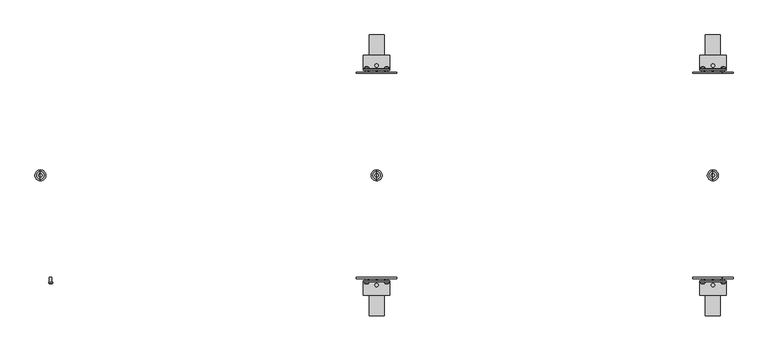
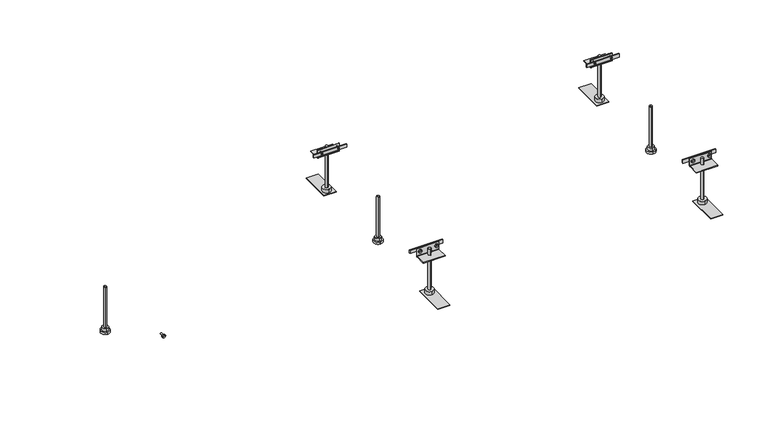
"""IFC4 building model written with IfcOpenShell, lengths in millimetres: proxy geometry."""

from ifc_helpers import new_model, si_unit, point, frame, frame_2d, origin, place, context, project, spatial, polyline, circle_curve, ellipse_curve, trimmed, segment, composite_curve, outline, extrude, source, transform, mapped, element, save
from ifc_brep_helpers import plane_surface, cylinder_surface, revolved_surface, advanced_brep


def electrical_fixtures_84b00acf(model_context):
    return source(origin(), model_context, "Body", "SolidModel", [
        advanced_brep(
        [(1600.0, 13.0, -129.7), (1600.0, -13.0, -129.7), (1600.0, 0.0, -129.7), (1600.0, 13.0, -123.7), (1600.0, -13.0, -123.7), (1600.0, 9.0, -123.7), (1600.0, -9.0, -123.7), (1600.0, 9.0, -114.7), (1600.0, -9.0, -114.7), (1600.0, 3.954744, -114.7), (1600.0, -3.954744, -114.7), (1600.0, 3.954744, 10.3), (1600.0, -3.954744, 10.3), (1600.0, 0.0, 10.3)],
        [
            (0, 1, circle_curve(frame((1600.0, 0.0, -129.7), z_axis=(0.0, 0.0, -1.0), x_axis=(0.0, -1.0, 0.0)), 13.0)),
            (1, 2),
            (2, 0),
            (1, 0, circle_curve(frame((1600.0, 0.0, -129.7), z_axis=(0.0, 0.0, -1.0), x_axis=(0.0, -1.0, 0.0)), 13.0)),
            (3, 4, circle_curve(frame((1600.0, 0.0, -123.7), z_axis=(0.0, 0.0, -1.0), x_axis=(0.0, -1.0, 0.0)), 13.0)),
            (4, 1),
            (0, 3),
            (4, 3, circle_curve(frame((1600.0, 0.0, -123.7), z_axis=(0.0, 0.0, -1.0), x_axis=(0.0, -1.0, 0.0)), 13.0)),
            (5, 6, circle_curve(frame((1600.0, 0.0, -123.7), z_axis=(0.0, 0.0, -1.0), x_axis=(0.0, -1.0, 0.0)), 9.0)),
            (6, 4),
            (3, 5),
            (6, 5, circle_curve(frame((1600.0, 0.0, -123.7), z_axis=(0.0, 0.0, -1.0), x_axis=(0.0, -1.0, 0.0)), 9.0)),
            (7, 8, circle_curve(frame((1600.0, 0.0, -114.7), z_axis=(0.0, 0.0, -1.0), x_axis=(0.0, -1.0, 0.0)), 9.0)),
            (8, 6),
            (5, 7),
            (8, 7, circle_curve(frame((1600.0, 0.0, -114.7), z_axis=(0.0, 0.0, -1.0), x_axis=(0.0, -1.0, 0.0)), 9.0)),
            (9, 10, circle_curve(frame((1600.0, 0.0, -114.7), z_axis=(0.0, 0.0, -1.0), x_axis=(0.0, -1.0, 0.0)), 3.954744)),
            (10, 8),
            (7, 9),
            (10, 9, circle_curve(frame((1600.0, 0.0, -114.7), z_axis=(0.0, 0.0, -1.0), x_axis=(0.0, -1.0, 0.0)), 3.954744)),
            (11, 12, circle_curve(frame((1600.0, 0.0, 10.3), z_axis=(0.0, 0.0, -1.0), x_axis=(0.0, -1.0, 0.0)), 3.954744)),
            (12, 10),
            (9, 11),
            (12, 11, circle_curve(frame((1600.0, 0.0, 10.3), z_axis=(0.0, 0.0, -1.0), x_axis=(0.0, -1.0, 0.0)), 3.954744)),
            (13, 12),
            (11, 13),
        ],
        [
            plane_surface(frame((1600.0, 0.0, -129.7), z_axis=(0.0, 0.0, -1.0), x_axis=(0.0, -1.0, 0.0))),
            cylinder_surface(frame((1600.0, 0.0, 7.8), z_axis=(0.0, 0.0, 1.0), x_axis=(0.0, -1.0, 0.0)), 13.0),
            plane_surface(frame((1600.0, 0.0, -123.7), z_axis=(0.0, 0.0, 1.0), x_axis=(0.0, -1.0, 0.0))),
            cylinder_surface(frame((1600.0, 0.0, 7.8), z_axis=(0.0, 0.0, 1.0), x_axis=(0.0, -1.0, 0.0)), 9.0),
            plane_surface(frame((1600.0, 0.0, -114.7), z_axis=(0.0, 0.0, 1.0), x_axis=(0.0, -1.0, 0.0))),
            cylinder_surface(frame((1600.0, 0.0, 7.8), z_axis=(0.0, 0.0, 1.0), x_axis=(0.0, -1.0, 0.0)), 3.954744),
            plane_surface(frame((1600.0, 0.0, 10.3), z_axis=(0.0, 0.0, 1.0), x_axis=(0.0, -1.0, 0.0))),
        ],
        [
            (0, [[1, 2, 3]]),
            (0, [[4, -3, -2]]),
            (1, [[5, 6, -1, 7]]),
            (1, [[8, -7, -4, -6]]),
            (2, [[9, 10, -5, 11]]),
            (2, [[12, -11, -8, -10]]),
            (3, [[13, 14, -9, 15]]),
            (3, [[16, -15, -12, -14]]),
            (4, [[17, 18, -13, 19]]),
            (4, [[20, -19, -16, -18]]),
            (5, [[21, 22, -17, 23]]),
            (5, [[24, -23, -20, -22]]),
            (6, [[25, -21, 26]]),
            (6, [[-26, -24, -25]]),
        ],
    ),
        advanced_brep(
        [(1629.0575247, -256.6418922, 3.3), (1619.4769168, -256.6418922, 3.3), (1619.4769168, -254.7, 3.3), (1629.0575247, -254.7, 3.3), (1621.7042517, -254.7, 3.3), (1626.8301898, -254.7, 3.3), (1621.7042517, -242.7, 3.3), (1626.8301898, -242.7, 3.3), (1624.2672208, -242.7, 3.3), (1624.2672208, -258.3479209, 3.3)],
        [
            (0, 1, circle_curve(frame((1624.2672208, -256.6418922, 3.3), z_axis=(0.0, 1.0, 0.0), x_axis=(-1.0, 0.0, 0.0)), 4.790304)),
            (1, 2),
            (2, 3, circle_curve(frame((1624.2672208, -254.7, 3.3), z_axis=(0.0, -1.0, 0.0), x_axis=(-1.0, 0.0, 0.0)), 4.790304)),
            (3, 0),
            (1, 0, circle_curve(frame((1624.2672208, -256.6418922, 3.3), z_axis=(0.0, 1.0, 0.0), x_axis=(-1.0, 0.0, 0.0)), 4.790304)),
            (3, 2, circle_curve(frame((1624.2672208, -254.7, 3.3), z_axis=(0.0, -1.0, 0.0), x_axis=(-1.0, 0.0, 0.0)), 4.790304)),
            (2, 4),
            (4, 5, circle_curve(frame((1624.2672208, -254.7, 3.3), z_axis=(0.0, -1.0, 0.0), x_axis=(-1.0, 0.0, 0.0)), 2.562969)),
            (5, 3),
            (5, 4, circle_curve(frame((1624.2672208, -254.7, 3.3), z_axis=(0.0, -1.0, 0.0), x_axis=(-1.0, 0.0, 0.0)), 2.562969)),
            (4, 6),
            (6, 7, circle_curve(frame((1624.2672208, -242.7, 3.3), z_axis=(0.0, -1.0, 0.0), x_axis=(-1.0, 0.0, 0.0)), 2.562969)),
            (7, 5),
            (7, 6, circle_curve(frame((1624.2672208, -242.7, 3.3), z_axis=(0.0, -1.0, 0.0), x_axis=(-1.0, 0.0, 0.0)), 2.562969)),
            (6, 8),
            (8, 7),
            (9, 1, circle_curve(frame((1624.2353142, -250.8592246, 3.3), z_axis=(0.0, 0.0, -1.0), x_axis=(-1.0, 0.0, 0.0)), 7.4887643)),
            (0, 9, circle_curve(frame((1624.2991274, -250.8592246, 3.3), z_axis=(0.0, 0.0, -1.0), x_axis=(1.0, 0.0, 0.0)), 7.4887643)),
        ],
        [
            cylinder_surface(frame((1624.2672208, -254.2950786, 3.3), z_axis=(0.0, -1.0, 0.0), x_axis=(-1.0, 0.0, 0.0)), 4.790304),
            plane_surface(frame((1624.2672208, -254.7, 3.3), z_axis=(0.0, 1.0, 0.0), x_axis=(-1.0, 0.0, 0.0))),
            cylinder_surface(frame((1624.2672208, -254.2950786, 3.3), z_axis=(0.0, -1.0, 0.0), x_axis=(-1.0, 0.0, 0.0)), 2.562969),
            plane_surface(frame((1624.2672208, -242.7, 3.3), z_axis=(0.0, 1.0, 0.0), x_axis=(-1.0, 0.0, 0.0))),
            revolved_surface(trimmed(ellipse_curve(frame((1624.2353142, -250.8592246, 3.3), z_axis=(0.0, 0.0, 1.0), x_axis=(-1.0, 0.0, 0.0)), 7.4887643, 7.4887643), [point((1619.4769168, -256.6418922, 3.3))], [point((1624.2672208, -258.3479209, 3.3))], True, "CARTESIAN"), (1624.2672208, -254.2950786, 3.3), (0.0, -1.0, 0.0)),
        ],
        [
            (0, [[1, 2, 3, 4]]),
            (0, [[5, -4, 6, -2]]),
            (1, [[-3, 7, 8, 9]]),
            (1, [[-6, -9, 10, -7]]),
            (2, [[-8, 11, 12, 13]]),
            (2, [[-10, -13, 14, -11]]),
            (3, [[-12, 15, 16]]),
            (3, [[-14, -16, -15]]),
            (4, [[17, -1, 18]]),
            (4, [[-18, -5, -17]]),
        ],
    ),
        advanced_brep(
        [(1580.790304, -256.6418922, 3.3), (1571.209696, -256.6418922, 3.3), (1571.209696, -254.7, 3.3), (1580.790304, -254.7, 3.3), (1573.437031, -254.7, 3.3), (1578.562969, -254.7, 3.3), (1573.437031, -242.7, 3.3), (1578.562969, -242.7, 3.3), (1576.0, -242.7, 3.3), (1576.0, -258.3479209, 3.3)],
        [
            (0, 1, circle_curve(frame((1576.0, -256.6418922, 3.3), z_axis=(0.0, 1.0, 0.0), x_axis=(-1.0, 0.0, 0.0)), 4.790304)),
            (1, 2),
            (2, 3, circle_curve(frame((1576.0, -254.7, 3.3), z_axis=(0.0, -1.0, 0.0), x_axis=(-1.0, 0.0, 0.0)), 4.790304)),
            (3, 0),
            (1, 0, circle_curve(frame((1576.0, -256.6418922, 3.3), z_axis=(0.0, 1.0, 0.0), x_axis=(-1.0, 0.0, 0.0)), 4.790304)),
            (3, 2, circle_curve(frame((1576.0, -254.7, 3.3), z_axis=(0.0, -1.0, 0.0), x_axis=(-1.0, 0.0, 0.0)), 4.790304)),
            (2, 4),
            (4, 5, circle_curve(frame((1576.0, -254.7, 3.3), z_axis=(0.0, -1.0, 0.0), x_axis=(-1.0, 0.0, 0.0)), 2.562969)),
            (5, 3),
            (5, 4, circle_curve(frame((1576.0, -254.7, 3.3), z_axis=(0.0, -1.0, 0.0), x_axis=(-1.0, 0.0, 0.0)), 2.562969)),
            (4, 6),
            (6, 7, circle_curve(frame((1576.0, -242.7, 3.3), z_axis=(0.0, -1.0, 0.0), x_axis=(-1.0, 0.0, 0.0)), 2.562969)),
            (7, 5),
            (7, 6, circle_curve(frame((1576.0, -242.7, 3.3), z_axis=(0.0, -1.0, 0.0), x_axis=(-1.0, 0.0, 0.0)), 2.562969)),
            (6, 8),
            (8, 7),
            (9, 1, circle_curve(frame((1575.9680934, -250.8592246, 3.3), z_axis=(0.0, 0.0, -1.0), x_axis=(-1.0, 0.0, 0.0)), 7.4887643)),
            (0, 9, circle_curve(frame((1576.0319066, -250.8592246, 3.3), z_axis=(0.0, 0.0, -1.0), x_axis=(1.0, 0.0, 0.0)), 7.4887643)),
        ],
        [
            cylinder_surface(frame((1576.0, -254.2950786, 3.3), z_axis=(0.0, -1.0, 0.0), x_axis=(-1.0, 0.0, 0.0)), 4.790304),
            plane_surface(frame((1576.0, -254.7, 3.3), z_axis=(0.0, 1.0, 0.0), x_axis=(-1.0, 0.0, 0.0))),
            cylinder_surface(frame((1576.0, -254.2950786, 3.3), z_axis=(0.0, -1.0, 0.0), x_axis=(-1.0, 0.0, 0.0)), 2.562969),
            plane_surface(frame((1576.0, -242.7, 3.3), z_axis=(0.0, 1.0, 0.0), x_axis=(-1.0, 0.0, 0.0))),
            revolved_surface(trimmed(ellipse_curve(frame((1575.9680934, -250.8592246, 3.3), z_axis=(0.0, 0.0, 1.0), x_axis=(-1.0, 0.0, 0.0)), 7.4887643, 7.4887643), [point((1571.209696, -256.6418922, 3.3))], [point((1576.0, -258.3479209, 3.3))], True, "CARTESIAN"), (1576.0, -254.2950786, 3.3), (0.0, -1.0, 0.0)),
        ],
        [
            (0, [[1, 2, 3, 4]]),
            (0, [[5, -4, 6, -2]]),
            (1, [[-3, 7, 8, 9]]),
            (1, [[-6, -9, 10, -7]]),
            (2, [[-8, 11, 12, 13]]),
            (2, [[-10, -13, 14, -11]]),
            (3, [[-12, 15, 16]]),
            (3, [[-14, -16, -15]]),
            (4, [[17, -1, 18]]),
            (4, [[-18, -5, -17]]),
        ],
    ),
        advanced_brep(
        [(1629.0575247, 254.7, 3.3), (1619.4769168, 254.7, 3.3), (1619.4769168, 256.6418922, 3.3), (1629.0575247, 256.6418922, 3.3), (1626.8301898, 254.7, 3.3), (1621.7042517, 254.7, 3.3), (1626.8301898, 242.7, 3.3), (1621.7042517, 242.7, 3.3), (1624.2672208, 242.7, 3.3), (1624.2672208, 258.3479209, 3.3)],
        [
            (0, 1, circle_curve(frame((1624.2672208, 254.7, 3.3), z_axis=(0.0, 1.0, 0.0), x_axis=(-1.0, 0.0, 0.0)), 4.790304)),
            (1, 2),
            (2, 3, circle_curve(frame((1624.2672208, 256.6418922, 3.3), z_axis=(0.0, -1.0, 0.0), x_axis=(-1.0, 0.0, 0.0)), 4.790304)),
            (3, 0),
            (1, 0, circle_curve(frame((1624.2672208, 254.7, 3.3), z_axis=(0.0, 1.0, 0.0), x_axis=(-1.0, 0.0, 0.0)), 4.790304)),
            (3, 2, circle_curve(frame((1624.2672208, 256.6418922, 3.3), z_axis=(0.0, -1.0, 0.0), x_axis=(-1.0, 0.0, 0.0)), 4.790304)),
            (4, 5, circle_curve(frame((1624.2672208, 254.7, 3.3), z_axis=(0.0, 1.0, 0.0), x_axis=(-1.0, 0.0, 0.0)), 2.562969)),
            (5, 1),
            (0, 4),
            (5, 4, circle_curve(frame((1624.2672208, 254.7, 3.3), z_axis=(0.0, 1.0, 0.0), x_axis=(-1.0, 0.0, 0.0)), 2.562969)),
            (6, 7, circle_curve(frame((1624.2672208, 242.7, 3.3), z_axis=(0.0, 1.0, 0.0), x_axis=(-1.0, 0.0, 0.0)), 2.562969)),
            (7, 5),
            (4, 6),
            (7, 6, circle_curve(frame((1624.2672208, 242.7, 3.3), z_axis=(0.0, 1.0, 0.0), x_axis=(-1.0, 0.0, 0.0)), 2.562969)),
            (8, 7),
            (6, 8),
            (2, 9, circle_curve(frame((1624.2353142, 250.8592246, 3.3), z_axis=(0.0, 0.0, -1.0), x_axis=(-1.0, 0.0, 0.0)), 7.4887643)),
            (9, 3, circle_curve(frame((1624.2991274, 250.8592246, 3.3), z_axis=(0.0, 0.0, -1.0), x_axis=(1.0, 0.0, 0.0)), 7.4887643)),
        ],
        [
            cylinder_surface(frame((1624.2672208, 254.2950786, 3.3), z_axis=(0.0, -1.0, 0.0), x_axis=(-1.0, 0.0, 0.0)), 4.790304),
            plane_surface(frame((1624.2672208, 254.7, 3.3), z_axis=(0.0, -1.0, 0.0), x_axis=(-1.0, 0.0, 0.0))),
            cylinder_surface(frame((1624.2672208, 254.2950786, 3.3), z_axis=(0.0, -1.0, 0.0), x_axis=(-1.0, 0.0, 0.0)), 2.562969),
            plane_surface(frame((1624.2672208, 242.7, 3.3), z_axis=(0.0, -1.0, 0.0), x_axis=(-1.0, 0.0, 0.0))),
            revolved_surface(trimmed(ellipse_curve(frame((1624.2353142, 250.8592246, 3.3), z_axis=(0.0, 0.0, 1.0), x_axis=(-1.0, 0.0, 0.0)), 7.4887643, 7.4887643), [point((1624.2672208, 258.3479209, 3.3))], [point((1619.4769168, 256.6418922, 3.3))], True, "CARTESIAN"), (1624.2672208, 254.2950786, 3.3), (0.0, -1.0, 0.0)),
        ],
        [
            (0, [[1, 2, 3, 4]]),
            (0, [[5, -4, 6, -2]]),
            (1, [[7, 8, -1, 9]]),
            (1, [[10, -9, -5, -8]]),
            (2, [[11, 12, -7, 13]]),
            (2, [[14, -13, -10, -12]]),
            (3, [[15, -11, 16]]),
            (3, [[-16, -14, -15]]),
            (4, [[-3, 17, 18]]),
            (4, [[-6, -18, -17]]),
        ],
    ),
        advanced_brep(
        [(1580.790304, 254.7, 3.3), (1571.209696, 254.7, 3.3), (1571.209696, 256.6418922, 3.3), (1580.790304, 256.6418922, 3.3), (1578.562969, 254.7, 3.3), (1573.437031, 254.7, 3.3), (1578.562969, 242.7, 3.3), (1573.437031, 242.7, 3.3), (1576.0, 242.7, 3.3), (1576.0, 258.3479209, 3.3)],
        [
            (0, 1, circle_curve(frame((1576.0, 254.7, 3.3), z_axis=(0.0, 1.0, 0.0), x_axis=(-1.0, 0.0, 0.0)), 4.790304)),
            (1, 2),
            (2, 3, circle_curve(frame((1576.0, 256.6418922, 3.3), z_axis=(0.0, -1.0, 0.0), x_axis=(-1.0, 0.0, 0.0)), 4.790304)),
            (3, 0),
            (1, 0, circle_curve(frame((1576.0, 254.7, 3.3), z_axis=(0.0, 1.0, 0.0), x_axis=(-1.0, 0.0, 0.0)), 4.790304)),
            (3, 2, circle_curve(frame((1576.0, 256.6418922, 3.3), z_axis=(0.0, -1.0, 0.0), x_axis=(-1.0, 0.0, 0.0)), 4.790304)),
            (4, 5, circle_curve(frame((1576.0, 254.7, 3.3), z_axis=(0.0, 1.0, 0.0), x_axis=(-1.0, 0.0, 0.0)), 2.562969)),
            (5, 1),
            (0, 4),
            (5, 4, circle_curve(frame((1576.0, 254.7, 3.3), z_axis=(0.0, 1.0, 0.0), x_axis=(-1.0, 0.0, 0.0)), 2.562969)),
            (6, 7, circle_curve(frame((1576.0, 242.7, 3.3), z_axis=(0.0, 1.0, 0.0), x_axis=(-1.0, 0.0, 0.0)), 2.562969)),
            (7, 5),
            (4, 6),
            (7, 6, circle_curve(frame((1576.0, 242.7, 3.3), z_axis=(0.0, 1.0, 0.0), x_axis=(-1.0, 0.0, 0.0)), 2.562969)),
            (8, 7),
            (6, 8),
            (2, 9, circle_curve(frame((1575.9680934, 250.8592246, 3.3), z_axis=(0.0, 0.0, -1.0), x_axis=(-1.0, 0.0, 0.0)), 7.4887643)),
            (9, 3, circle_curve(frame((1576.0319066, 250.8592246, 3.3), z_axis=(0.0, 0.0, -1.0), x_axis=(1.0, 0.0, 0.0)), 7.4887643)),
        ],
        [
            cylinder_surface(frame((1576.0, 254.2950786, 3.3), z_axis=(0.0, -1.0, 0.0), x_axis=(-1.0, 0.0, 0.0)), 4.790304),
            plane_surface(frame((1576.0, 254.7, 3.3), z_axis=(0.0, -1.0, 0.0), x_axis=(-1.0, 0.0, 0.0))),
            cylinder_surface(frame((1576.0, 254.2950786, 3.3), z_axis=(0.0, -1.0, 0.0), x_axis=(-1.0, 0.0, 0.0)), 2.562969),
            plane_surface(frame((1576.0, 242.7, 3.3), z_axis=(0.0, -1.0, 0.0), x_axis=(-1.0, 0.0, 0.0))),
            revolved_surface(trimmed(ellipse_curve(frame((1575.9680934, 250.8592246, 3.3), z_axis=(0.0, 0.0, 1.0), x_axis=(-1.0, 0.0, 0.0)), 7.4887643, 7.4887643), [point((1576.0, 258.3479209, 3.3))], [point((1571.209696, 256.6418922, 3.3))], True, "CARTESIAN"), (1576.0, 254.2950786, 3.3), (0.0, -1.0, 0.0)),
        ],
        [
            (0, [[1, 2, 3, 4]]),
            (0, [[5, -4, 6, -2]]),
            (1, [[7, 8, -1, 9]]),
            (1, [[10, -9, -5, -8]]),
            (2, [[11, 12, -7, 13]]),
            (2, [[14, -13, -10, -12]]),
            (3, [[15, -11, 16]]),
            (3, [[-16, -14, -15]]),
            (4, [[-3, 17, 18]]),
            (4, [[-6, -18, -17]]),
        ],
    ),
        extrude(outline(polyline([(1552.0, 242.7), (1552.0, 245.7), (1648.0, 245.7), (1648.0, 242.7), (1552.0, 242.7)])), frame((0.0, 0.0, -1.7), z_axis=(0.0, 0.0, 1.0), x_axis=(1.0, 0.0, 0.0)), (0.0, 0.0, 1.0), 10.0),
        extrude(outline(polyline([(1552.0, -245.7), (1552.0, -242.7), (1648.0, -242.7), (1648.0, -245.7), (1552.0, -245.7)])), frame((0.0, 0.0, -1.7), z_axis=(0.0, 0.0, 1.0), x_axis=(1.0, 0.0, 0.0)), (0.0, 0.0, 1.0), 10.0),
        extrude(outline(composite_curve([segment(polyline([(250.6, 11.7), (252.6, 11.7), (252.6, -10.3088822)]), True, "CONTINUOUS"), segment(trimmed(circle_curve(frame_2d((253.5911178, -10.3088822)), 0.9911178), [point((252.6, -10.3088822))], [point((253.5911178, -11.3))], True, "CARTESIAN"), True, "CONTINUOUS"), segment(polyline([(253.5911178, -11.3), (285.6, -11.3), (285.6, -13.3), (253.6002521, -13.3)]), True, "CONTINUOUS"), segment(trimmed(circle_curve(frame_2d((253.6002521, -10.2997479)), 3.0002521), [point((253.6002521, -13.3))], [point((250.6, -10.2997479))], False, "CARTESIAN"), True, "CONTINUOUS"), segment(polyline([(250.6, -10.2997479), (250.6, 11.7)]), True, "CONTINUOUS")], self_intersect=False)), frame((1568.3, 0.0, 0.0), z_axis=(1.0, 0.0, 0.0), x_axis=(0.0, 1.0, 0.0)), (0.0, 0.0, 1.0), 63.4),
        extrude(outline(composite_curve([segment(polyline([(-250.6, 11.7), (-250.6, -10.2997479)]), True, "CONTINUOUS"), segment(trimmed(circle_curve(frame_2d((-253.6002521, -10.2997479)), 3.0002521), [point((-250.6, -10.2997479))], [point((-253.6002521, -13.3))], False, "CARTESIAN"), True, "CONTINUOUS"), segment(polyline([(-253.6002521, -13.3), (-285.6, -13.3), (-285.6, -11.3), (-253.5911178, -11.3)]), True, "CONTINUOUS"), segment(trimmed(circle_curve(frame_2d((-253.5911178, -10.3088822)), 0.9911178), [point((-253.5911178, -11.3))], [point((-252.6, -10.3088822))], True, "CARTESIAN"), True, "CONTINUOUS"), segment(polyline([(-252.6, -10.3088822), (-252.6, 11.7), (-250.6, 11.7)]), True, "CONTINUOUS")], self_intersect=False)), frame((1568.3, 0.0, 0.0), z_axis=(1.0, 0.0, 0.0), x_axis=(0.0, 1.0, 0.0)), (0.0, 0.0, 1.0), 63.4),
        extrude(outline(composite_curve([segment(trimmed(circle_curve(frame_2d((1600.0, 261.1712378)), 3.9923162), [point((1600.0, 265.163554))], [point((1600.0, 257.1789216))], False, "CARTESIAN"), True, "CONTINUOUS"), segment(trimmed(circle_curve(frame_2d((1600.0, 261.1712378)), 3.9923162), [point((1600.0, 257.1789216))], [point((1600.0, 265.163554))], False, "CARTESIAN"), True, "CONTINUOUS")], self_intersect=False)), frame((0.0, 0.0, -119.0), z_axis=(0.0, 0.0, 1.0), x_axis=(1.0, 0.0, 0.0)), (0.0, 0.0, 1.0), 126.8),
        extrude(outline(composite_curve([segment(trimmed(circle_curve(frame_2d((1600.0, -261.0787011)), 3.991847), [point((1600.0, -257.0868541))], [point((1600.0, -265.0705482))], False, "CARTESIAN"), True, "CONTINUOUS"), segment(trimmed(circle_curve(frame_2d((1600.0, -261.0787011)), 3.991847), [point((1600.0, -265.0705482))], [point((1600.0, -257.0868541))], False, "CARTESIAN"), True, "CONTINUOUS")], self_intersect=False)), frame((0.0, 0.0, -119.0), z_axis=(0.0, 0.0, 1.0), x_axis=(1.0, 0.0, 0.0)), (0.0, 0.0, 1.0), 126.8),
        extrude(outline(composite_curve([segment(trimmed(circle_curve(frame_2d((1600.0, 261.1652527)), 12.0), [point((1600.0, 273.1652527))], [point((1600.0, 249.1652527))], False, "CARTESIAN"), True, "CONTINUOUS"), segment(trimmed(circle_curve(frame_2d((1600.0, 261.1652527)), 12.0), [point((1600.0, 249.1652527))], [point((1600.0, 273.1652527))], False, "CARTESIAN"), True, "CONTINUOUS")], self_intersect=False)), frame((0.0, 0.0, -129.7), z_axis=(0.0, 0.0, 1.0), x_axis=(1.0, 0.0, 0.0)), (0.0, 0.0, 1.0), 10.7),
        extrude(outline(composite_curve([segment(trimmed(circle_curve(frame_2d((1600.0, -261.112037)), 12.0), [point((1600.0, -249.112037))], [point((1600.0, -273.112037))], False, "CARTESIAN"), True, "CONTINUOUS"), segment(trimmed(circle_curve(frame_2d((1600.0, -261.112037)), 12.0), [point((1600.0, -273.112037))], [point((1600.0, -249.112037))], False, "CARTESIAN"), True, "CONTINUOUS")], self_intersect=False)), frame((0.0, 0.0, -129.7), z_axis=(0.0, 0.0, 1.0), x_axis=(1.0, 0.0, 0.0)), (0.0, 0.0, 1.0), 10.7),
        extrude(outline(polyline([(1618.0, 244.1), (1582.0, 244.1), (1582.0, 334.1), (1618.0, 334.1), (1618.0, 244.1)])), frame((0.0, 0.0, -131.2), z_axis=(0.0, 0.0, 1.0), x_axis=(1.0, 0.0, 0.0)), (0.0, 0.0, 1.0), 1.5),
        extrude(outline(polyline([(1618.0, -334.1), (1582.0, -334.1), (1582.0, -244.1), (1618.0, -244.1), (1618.0, -334.1)])), frame((0.0, 0.0, -131.2), z_axis=(0.0, 0.0, 1.0), x_axis=(1.0, 0.0, 0.0)), (0.0, 0.0, 1.0), 1.5),
        advanced_brep(
        [(800.0, 13.0, -129.7), (800.0, -13.0, -129.7), (800.0, 0.0, -129.7), (800.0, 13.0, -123.7), (800.0, -13.0, -123.7), (800.0, 9.0, -123.7), (800.0, -9.0, -123.7), (800.0, 9.0, -114.7), (800.0, -9.0, -114.7), (800.0, 3.954744, -114.7), (800.0, -3.954744, -114.7), (800.0, 3.954744, 10.3), (800.0, -3.954744, 10.3), (800.0, 0.0, 10.3)],
        [
            (0, 1, circle_curve(frame((800.0, 0.0, -129.7), z_axis=(0.0, 0.0, -1.0), x_axis=(0.0, -1.0, 0.0)), 13.0)),
            (1, 2),
            (2, 0),
            (1, 0, circle_curve(frame((800.0, 0.0, -129.7), z_axis=(0.0, 0.0, -1.0), x_axis=(0.0, -1.0, 0.0)), 13.0)),
            (3, 4, circle_curve(frame((800.0, 0.0, -123.7), z_axis=(0.0, 0.0, -1.0), x_axis=(0.0, -1.0, 0.0)), 13.0)),
            (4, 1),
            (0, 3),
            (4, 3, circle_curve(frame((800.0, 0.0, -123.7), z_axis=(0.0, 0.0, -1.0), x_axis=(0.0, -1.0, 0.0)), 13.0)),
            (5, 6, circle_curve(frame((800.0, 0.0, -123.7), z_axis=(0.0, 0.0, -1.0), x_axis=(0.0, -1.0, 0.0)), 9.0)),
            (6, 4),
            (3, 5),
            (6, 5, circle_curve(frame((800.0, 0.0, -123.7), z_axis=(0.0, 0.0, -1.0), x_axis=(0.0, -1.0, 0.0)), 9.0)),
            (7, 8, circle_curve(frame((800.0, 0.0, -114.7), z_axis=(0.0, 0.0, -1.0), x_axis=(0.0, -1.0, 0.0)), 9.0)),
            (8, 6),
            (5, 7),
            (8, 7, circle_curve(frame((800.0, 0.0, -114.7), z_axis=(0.0, 0.0, -1.0), x_axis=(0.0, -1.0, 0.0)), 9.0)),
            (9, 10, circle_curve(frame((800.0, 0.0, -114.7), z_axis=(0.0, 0.0, -1.0), x_axis=(0.0, -1.0, 0.0)), 3.954744)),
            (10, 8),
            (7, 9),
            (10, 9, circle_curve(frame((800.0, 0.0, -114.7), z_axis=(0.0, 0.0, -1.0), x_axis=(0.0, -1.0, 0.0)), 3.954744)),
            (11, 12, circle_curve(frame((800.0, 0.0, 10.3), z_axis=(0.0, 0.0, -1.0), x_axis=(0.0, -1.0, 0.0)), 3.954744)),
            (12, 10),
            (9, 11),
            (12, 11, circle_curve(frame((800.0, 0.0, 10.3), z_axis=(0.0, 0.0, -1.0), x_axis=(0.0, -1.0, 0.0)), 3.954744)),
            (13, 12),
            (11, 13),
        ],
        [
            plane_surface(frame((800.0, 0.0, -129.7), z_axis=(0.0, 0.0, -1.0), x_axis=(0.0, -1.0, 0.0))),
            cylinder_surface(frame((800.0, 0.0, 7.8), z_axis=(0.0, 0.0, 1.0), x_axis=(0.0, -1.0, 0.0)), 13.0),
            plane_surface(frame((800.0, 0.0, -123.7), z_axis=(0.0, 0.0, 1.0), x_axis=(0.0, -1.0, 0.0))),
            cylinder_surface(frame((800.0, 0.0, 7.8), z_axis=(0.0, 0.0, 1.0), x_axis=(0.0, -1.0, 0.0)), 9.0),
            plane_surface(frame((800.0, 0.0, -114.7), z_axis=(0.0, 0.0, 1.0), x_axis=(0.0, -1.0, 0.0))),
            cylinder_surface(frame((800.0, 0.0, 7.8), z_axis=(0.0, 0.0, 1.0), x_axis=(0.0, -1.0, 0.0)), 3.954744),
            plane_surface(frame((800.0, 0.0, 10.3), z_axis=(0.0, 0.0, 1.0), x_axis=(0.0, -1.0, 0.0))),
        ],
        [
            (0, [[1, 2, 3]]),
            (0, [[4, -3, -2]]),
            (1, [[5, 6, -1, 7]]),
            (1, [[8, -7, -4, -6]]),
            (2, [[9, 10, -5, 11]]),
            (2, [[12, -11, -8, -10]]),
            (3, [[13, 14, -9, 15]]),
            (3, [[16, -15, -12, -14]]),
            (4, [[17, 18, -13, 19]]),
            (4, [[20, -19, -16, -18]]),
            (5, [[21, 22, -17, 23]]),
            (5, [[24, -23, -20, -22]]),
            (6, [[25, -21, 26]]),
            (6, [[-26, -24, -25]]),
        ],
    ),
        advanced_brep(
        [(829.0575247, -256.6418922, 3.3), (819.4769168, -256.6418922, 3.3), (819.4769168, -254.7, 3.3), (829.0575247, -254.7, 3.3), (821.7042517, -254.7, 3.3), (826.8301898, -254.7, 3.3), (821.7042517, -242.7, 3.3), (826.8301898, -242.7, 3.3), (824.2672208, -242.7, 3.3), (824.2672208, -258.3479209, 3.3)],
        [
            (0, 1, circle_curve(frame((824.2672208, -256.6418922, 3.3), z_axis=(0.0, 1.0, 0.0), x_axis=(-1.0, 0.0, 0.0)), 4.790304)),
            (1, 2),
            (2, 3, circle_curve(frame((824.2672208, -254.7, 3.3), z_axis=(0.0, -1.0, 0.0), x_axis=(-1.0, 0.0, 0.0)), 4.790304)),
            (3, 0),
            (1, 0, circle_curve(frame((824.2672208, -256.6418922, 3.3), z_axis=(0.0, 1.0, 0.0), x_axis=(-1.0, 0.0, 0.0)), 4.790304)),
            (3, 2, circle_curve(frame((824.2672208, -254.7, 3.3), z_axis=(0.0, -1.0, 0.0), x_axis=(-1.0, 0.0, 0.0)), 4.790304)),
            (2, 4),
            (4, 5, circle_curve(frame((824.2672208, -254.7, 3.3), z_axis=(0.0, -1.0, 0.0), x_axis=(-1.0, 0.0, 0.0)), 2.562969)),
            (5, 3),
            (5, 4, circle_curve(frame((824.2672208, -254.7, 3.3), z_axis=(0.0, -1.0, 0.0), x_axis=(-1.0, 0.0, 0.0)), 2.562969)),
            (4, 6),
            (6, 7, circle_curve(frame((824.2672208, -242.7, 3.3), z_axis=(0.0, -1.0, 0.0), x_axis=(-1.0, 0.0, 0.0)), 2.562969)),
            (7, 5),
            (7, 6, circle_curve(frame((824.2672208, -242.7, 3.3), z_axis=(0.0, -1.0, 0.0), x_axis=(-1.0, 0.0, 0.0)), 2.562969)),
            (6, 8),
            (8, 7),
            (9, 1, circle_curve(frame((824.2353142, -250.8592246, 3.3), z_axis=(0.0, 0.0, -1.0), x_axis=(-1.0, 0.0, 0.0)), 7.4887643)),
            (0, 9, circle_curve(frame((824.2991274, -250.8592246, 3.3), z_axis=(0.0, 0.0, -1.0), x_axis=(1.0, 0.0, 0.0)), 7.4887643)),
        ],
        [
            cylinder_surface(frame((824.2672208, -254.2950786, 3.3), z_axis=(0.0, -1.0, 0.0), x_axis=(-1.0, 0.0, 0.0)), 4.790304),
            plane_surface(frame((824.2672208, -254.7, 3.3), z_axis=(0.0, 1.0, 0.0), x_axis=(-1.0, 0.0, 0.0))),
            cylinder_surface(frame((824.2672208, -254.2950786, 3.3), z_axis=(0.0, -1.0, 0.0), x_axis=(-1.0, 0.0, 0.0)), 2.562969),
            plane_surface(frame((824.2672208, -242.7, 3.3), z_axis=(0.0, 1.0, 0.0), x_axis=(-1.0, 0.0, 0.0))),
            revolved_surface(trimmed(ellipse_curve(frame((824.2353142, -250.8592246, 3.3), z_axis=(0.0, 0.0, 1.0), x_axis=(-1.0, 0.0, 0.0)), 7.4887643, 7.4887643), [point((819.4769168, -256.6418922, 3.3))], [point((824.2672208, -258.3479209, 3.3))], True, "CARTESIAN"), (824.2672208, -254.2950786, 3.3), (0.0, -1.0, 0.0)),
        ],
        [
            (0, [[1, 2, 3, 4]]),
            (0, [[5, -4, 6, -2]]),
            (1, [[-3, 7, 8, 9]]),
            (1, [[-6, -9, 10, -7]]),
            (2, [[-8, 11, 12, 13]]),
            (2, [[-10, -13, 14, -11]]),
            (3, [[-12, 15, 16]]),
            (3, [[-14, -16, -15]]),
            (4, [[17, -1, 18]]),
            (4, [[-18, -5, -17]]),
        ],
    ),
        advanced_brep(
        [(780.790304, -256.6418922, 3.3), (771.209696, -256.6418922, 3.3), (771.209696, -254.7, 3.3), (780.790304, -254.7, 3.3), (773.437031, -254.7, 3.3), (778.562969, -254.7, 3.3), (773.437031, -242.7, 3.3), (778.562969, -242.7, 3.3), (776.0, -242.7, 3.3), (776.0, -258.3479209, 3.3)],
        [
            (0, 1, circle_curve(frame((776.0, -256.6418922, 3.3), z_axis=(0.0, 1.0, 0.0), x_axis=(-1.0, 0.0, 0.0)), 4.790304)),
            (1, 2),
            (2, 3, circle_curve(frame((776.0, -254.7, 3.3), z_axis=(0.0, -1.0, 0.0), x_axis=(-1.0, 0.0, 0.0)), 4.790304)),
            (3, 0),
            (1, 0, circle_curve(frame((776.0, -256.6418922, 3.3), z_axis=(0.0, 1.0, 0.0), x_axis=(-1.0, 0.0, 0.0)), 4.790304)),
            (3, 2, circle_curve(frame((776.0, -254.7, 3.3), z_axis=(0.0, -1.0, 0.0), x_axis=(-1.0, 0.0, 0.0)), 4.790304)),
            (2, 4),
            (4, 5, circle_curve(frame((776.0, -254.7, 3.3), z_axis=(0.0, -1.0, 0.0), x_axis=(-1.0, 0.0, 0.0)), 2.562969)),
            (5, 3),
            (5, 4, circle_curve(frame((776.0, -254.7, 3.3), z_axis=(0.0, -1.0, 0.0), x_axis=(-1.0, 0.0, 0.0)), 2.562969)),
            (4, 6),
            (6, 7, circle_curve(frame((776.0, -242.7, 3.3), z_axis=(0.0, -1.0, 0.0), x_axis=(-1.0, 0.0, 0.0)), 2.562969)),
            (7, 5),
            (7, 6, circle_curve(frame((776.0, -242.7, 3.3), z_axis=(0.0, -1.0, 0.0), x_axis=(-1.0, 0.0, 0.0)), 2.562969)),
            (6, 8),
            (8, 7),
            (9, 1, circle_curve(frame((775.9680934, -250.8592246, 3.3), z_axis=(0.0, 0.0, -1.0), x_axis=(-1.0, 0.0, 0.0)), 7.4887643)),
            (0, 9, circle_curve(frame((776.0319066, -250.8592246, 3.3), z_axis=(0.0, 0.0, -1.0), x_axis=(1.0, 0.0, 0.0)), 7.4887643)),
        ],
        [
            cylinder_surface(frame((776.0, -254.2950786, 3.3), z_axis=(0.0, -1.0, 0.0), x_axis=(-1.0, 0.0, 0.0)), 4.790304),
            plane_surface(frame((776.0, -254.7, 3.3), z_axis=(0.0, 1.0, 0.0), x_axis=(-1.0, 0.0, 0.0))),
            cylinder_surface(frame((776.0, -254.2950786, 3.3), z_axis=(0.0, -1.0, 0.0), x_axis=(-1.0, 0.0, 0.0)), 2.562969),
            plane_surface(frame((776.0, -242.7, 3.3), z_axis=(0.0, 1.0, 0.0), x_axis=(-1.0, 0.0, 0.0))),
            revolved_surface(trimmed(ellipse_curve(frame((775.9680934, -250.8592246, 3.3), z_axis=(0.0, 0.0, 1.0), x_axis=(-1.0, 0.0, 0.0)), 7.4887643, 7.4887643), [point((771.209696, -256.6418922, 3.3))], [point((776.0, -258.3479209, 3.3))], True, "CARTESIAN"), (776.0, -254.2950786, 3.3), (0.0, -1.0, 0.0)),
        ],
        [
            (0, [[1, 2, 3, 4]]),
            (0, [[5, -4, 6, -2]]),
            (1, [[-3, 7, 8, 9]]),
            (1, [[-6, -9, 10, -7]]),
            (2, [[-8, 11, 12, 13]]),
            (2, [[-10, -13, 14, -11]]),
            (3, [[-12, 15, 16]]),
            (3, [[-14, -16, -15]]),
            (4, [[17, -1, 18]]),
            (4, [[-18, -5, -17]]),
        ],
    ),
        advanced_brep(
        [(829.0575247, 254.7, 3.3), (819.4769168, 254.7, 3.3), (819.4769168, 256.6418922, 3.3), (829.0575247, 256.6418922, 3.3), (826.8301898, 254.7, 3.3), (821.7042517, 254.7, 3.3), (826.8301898, 242.7, 3.3), (821.7042517, 242.7, 3.3), (824.2672208, 242.7, 3.3), (824.2672208, 258.3479209, 3.3)],
        [
            (0, 1, circle_curve(frame((824.2672208, 254.7, 3.3), z_axis=(0.0, 1.0, 0.0), x_axis=(-1.0, 0.0, 0.0)), 4.790304)),
            (1, 2),
            (2, 3, circle_curve(frame((824.2672208, 256.6418922, 3.3), z_axis=(0.0, -1.0, 0.0), x_axis=(-1.0, 0.0, 0.0)), 4.790304)),
            (3, 0),
            (1, 0, circle_curve(frame((824.2672208, 254.7, 3.3), z_axis=(0.0, 1.0, 0.0), x_axis=(-1.0, 0.0, 0.0)), 4.790304)),
            (3, 2, circle_curve(frame((824.2672208, 256.6418922, 3.3), z_axis=(0.0, -1.0, 0.0), x_axis=(-1.0, 0.0, 0.0)), 4.790304)),
            (4, 5, circle_curve(frame((824.2672208, 254.7, 3.3), z_axis=(0.0, 1.0, 0.0), x_axis=(-1.0, 0.0, 0.0)), 2.562969)),
            (5, 1),
            (0, 4),
            (5, 4, circle_curve(frame((824.2672208, 254.7, 3.3), z_axis=(0.0, 1.0, 0.0), x_axis=(-1.0, 0.0, 0.0)), 2.562969)),
            (6, 7, circle_curve(frame((824.2672208, 242.7, 3.3), z_axis=(0.0, 1.0, 0.0), x_axis=(-1.0, 0.0, 0.0)), 2.562969)),
            (7, 5),
            (4, 6),
            (7, 6, circle_curve(frame((824.2672208, 242.7, 3.3), z_axis=(0.0, 1.0, 0.0), x_axis=(-1.0, 0.0, 0.0)), 2.562969)),
            (8, 7),
            (6, 8),
            (2, 9, circle_curve(frame((824.2353142, 250.8592246, 3.3), z_axis=(0.0, 0.0, -1.0), x_axis=(-1.0, 0.0, 0.0)), 7.4887643)),
            (9, 3, circle_curve(frame((824.2991274, 250.8592246, 3.3), z_axis=(0.0, 0.0, -1.0), x_axis=(1.0, 0.0, 0.0)), 7.4887643)),
        ],
        [
            cylinder_surface(frame((824.2672208, 254.2950786, 3.3), z_axis=(0.0, -1.0, 0.0), x_axis=(-1.0, 0.0, 0.0)), 4.790304),
            plane_surface(frame((824.2672208, 254.7, 3.3), z_axis=(0.0, -1.0, 0.0), x_axis=(-1.0, 0.0, 0.0))),
            cylinder_surface(frame((824.2672208, 254.2950786, 3.3), z_axis=(0.0, -1.0, 0.0), x_axis=(-1.0, 0.0, 0.0)), 2.562969),
            plane_surface(frame((824.2672208, 242.7, 3.3), z_axis=(0.0, -1.0, 0.0), x_axis=(-1.0, 0.0, 0.0))),
            revolved_surface(trimmed(ellipse_curve(frame((824.2353142, 250.8592246, 3.3), z_axis=(0.0, 0.0, 1.0), x_axis=(-1.0, 0.0, 0.0)), 7.4887643, 7.4887643), [point((824.2672208, 258.3479209, 3.3))], [point((819.4769168, 256.6418922, 3.3))], True, "CARTESIAN"), (824.2672208, 254.2950786, 3.3), (0.0, -1.0, 0.0)),
        ],
        [
            (0, [[1, 2, 3, 4]]),
            (0, [[5, -4, 6, -2]]),
            (1, [[7, 8, -1, 9]]),
            (1, [[10, -9, -5, -8]]),
            (2, [[11, 12, -7, 13]]),
            (2, [[14, -13, -10, -12]]),
            (3, [[15, -11, 16]]),
            (3, [[-16, -14, -15]]),
            (4, [[-3, 17, 18]]),
            (4, [[-6, -18, -17]]),
        ],
    ),
        advanced_brep(
        [(780.790304, 254.7, 3.3), (771.209696, 254.7, 3.3), (771.209696, 256.6418922, 3.3), (780.790304, 256.6418922, 3.3), (778.562969, 254.7, 3.3), (773.437031, 254.7, 3.3), (778.562969, 242.7, 3.3), (773.437031, 242.7, 3.3), (776.0, 242.7, 3.3), (776.0, 258.3479209, 3.3)],
        [
            (0, 1, circle_curve(frame((776.0, 254.7, 3.3), z_axis=(0.0, 1.0, 0.0), x_axis=(-1.0, 0.0, 0.0)), 4.790304)),
            (1, 2),
            (2, 3, circle_curve(frame((776.0, 256.6418922, 3.3), z_axis=(0.0, -1.0, 0.0), x_axis=(-1.0, 0.0, 0.0)), 4.790304)),
            (3, 0),
            (1, 0, circle_curve(frame((776.0, 254.7, 3.3), z_axis=(0.0, 1.0, 0.0), x_axis=(-1.0, 0.0, 0.0)), 4.790304)),
            (3, 2, circle_curve(frame((776.0, 256.6418922, 3.3), z_axis=(0.0, -1.0, 0.0), x_axis=(-1.0, 0.0, 0.0)), 4.790304)),
            (4, 5, circle_curve(frame((776.0, 254.7, 3.3), z_axis=(0.0, 1.0, 0.0), x_axis=(-1.0, 0.0, 0.0)), 2.562969)),
            (5, 1),
            (0, 4),
            (5, 4, circle_curve(frame((776.0, 254.7, 3.3), z_axis=(0.0, 1.0, 0.0), x_axis=(-1.0, 0.0, 0.0)), 2.562969)),
            (6, 7, circle_curve(frame((776.0, 242.7, 3.3), z_axis=(0.0, 1.0, 0.0), x_axis=(-1.0, 0.0, 0.0)), 2.562969)),
            (7, 5),
            (4, 6),
            (7, 6, circle_curve(frame((776.0, 242.7, 3.3), z_axis=(0.0, 1.0, 0.0), x_axis=(-1.0, 0.0, 0.0)), 2.562969)),
            (8, 7),
            (6, 8),
            (2, 9, circle_curve(frame((775.9680934, 250.8592246, 3.3), z_axis=(0.0, 0.0, -1.0), x_axis=(-1.0, 0.0, 0.0)), 7.4887643)),
            (9, 3, circle_curve(frame((776.0319066, 250.8592246, 3.3), z_axis=(0.0, 0.0, -1.0), x_axis=(1.0, 0.0, 0.0)), 7.4887643)),
        ],
        [
            cylinder_surface(frame((776.0, 254.2950786, 3.3), z_axis=(0.0, -1.0, 0.0), x_axis=(-1.0, 0.0, 0.0)), 4.790304),
            plane_surface(frame((776.0, 254.7, 3.3), z_axis=(0.0, -1.0, 0.0), x_axis=(-1.0, 0.0, 0.0))),
            cylinder_surface(frame((776.0, 254.2950786, 3.3), z_axis=(0.0, -1.0, 0.0), x_axis=(-1.0, 0.0, 0.0)), 2.562969),
            plane_surface(frame((776.0, 242.7, 3.3), z_axis=(0.0, -1.0, 0.0), x_axis=(-1.0, 0.0, 0.0))),
            revolved_surface(trimmed(ellipse_curve(frame((775.9680934, 250.8592246, 3.3), z_axis=(0.0, 0.0, 1.0), x_axis=(-1.0, 0.0, 0.0)), 7.4887643, 7.4887643), [point((776.0, 258.3479209, 3.3))], [point((771.209696, 256.6418922, 3.3))], True, "CARTESIAN"), (776.0, 254.2950786, 3.3), (0.0, -1.0, 0.0)),
        ],
        [
            (0, [[1, 2, 3, 4]]),
            (0, [[5, -4, 6, -2]]),
            (1, [[7, 8, -1, 9]]),
            (1, [[10, -9, -5, -8]]),
            (2, [[11, 12, -7, 13]]),
            (2, [[14, -13, -10, -12]]),
            (3, [[15, -11, 16]]),
            (3, [[-16, -14, -15]]),
            (4, [[-3, 17, 18]]),
            (4, [[-6, -18, -17]]),
        ],
    ),
        extrude(outline(polyline([(752.0, 242.7), (752.0, 245.7), (848.0, 245.7), (848.0, 242.7), (752.0, 242.7)])), frame((0.0, 0.0, -1.7), z_axis=(0.0, 0.0, 1.0), x_axis=(1.0, 0.0, 0.0)), (0.0, 0.0, 1.0), 10.0),
        extrude(outline(polyline([(752.0, -245.7), (752.0, -242.7), (848.0, -242.7), (848.0, -245.7), (752.0, -245.7)])), frame((0.0, 0.0, -1.7), z_axis=(0.0, 0.0, 1.0), x_axis=(1.0, 0.0, 0.0)), (0.0, 0.0, 1.0), 10.0),
        extrude(outline(composite_curve([segment(polyline([(250.6, 11.7), (252.6, 11.7), (252.6, -10.3088822)]), True, "CONTINUOUS"), segment(trimmed(circle_curve(frame_2d((253.5911178, -10.3088822)), 0.9911178), [point((252.6, -10.3088822))], [point((253.5911178, -11.3))], True, "CARTESIAN"), True, "CONTINUOUS"), segment(polyline([(253.5911178, -11.3), (285.6, -11.3), (285.6, -13.3), (253.6002521, -13.3)]), True, "CONTINUOUS"), segment(trimmed(circle_curve(frame_2d((253.6002521, -10.2997479)), 3.0002521), [point((253.6002521, -13.3))], [point((250.6, -10.2997479))], False, "CARTESIAN"), True, "CONTINUOUS"), segment(polyline([(250.6, -10.2997479), (250.6, 11.7)]), True, "CONTINUOUS")], self_intersect=False)), frame((768.3, 0.0, 0.0), z_axis=(1.0, 0.0, 0.0), x_axis=(0.0, 1.0, 0.0)), (0.0, 0.0, 1.0), 63.4),
        extrude(outline(composite_curve([segment(polyline([(-250.6, 11.7), (-250.6, -10.2997479)]), True, "CONTINUOUS"), segment(trimmed(circle_curve(frame_2d((-253.6002521, -10.2997479)), 3.0002521), [point((-250.6, -10.2997479))], [point((-253.6002521, -13.3))], False, "CARTESIAN"), True, "CONTINUOUS"), segment(polyline([(-253.6002521, -13.3), (-285.6, -13.3), (-285.6, -11.3), (-253.5911178, -11.3)]), True, "CONTINUOUS"), segment(trimmed(circle_curve(frame_2d((-253.5911178, -10.3088822)), 0.9911178), [point((-253.5911178, -11.3))], [point((-252.6, -10.3088822))], True, "CARTESIAN"), True, "CONTINUOUS"), segment(polyline([(-252.6, -10.3088822), (-252.6, 11.7), (-250.6, 11.7)]), True, "CONTINUOUS")], self_intersect=False)), frame((768.3, 0.0, 0.0), z_axis=(1.0, 0.0, 0.0), x_axis=(0.0, 1.0, 0.0)), (0.0, 0.0, 1.0), 63.4),
        extrude(outline(composite_curve([segment(trimmed(circle_curve(frame_2d((800.0, 261.1712378)), 3.9923162), [point((800.0, 265.163554))], [point((800.0, 257.1789216))], False, "CARTESIAN"), True, "CONTINUOUS"), segment(trimmed(circle_curve(frame_2d((800.0, 261.1712378)), 3.9923162), [point((800.0, 257.1789216))], [point((800.0, 265.163554))], False, "CARTESIAN"), True, "CONTINUOUS")], self_intersect=False)), frame((0.0, 0.0, -119.0), z_axis=(0.0, 0.0, 1.0), x_axis=(1.0, 0.0, 0.0)), (0.0, 0.0, 1.0), 126.8),
        extrude(outline(composite_curve([segment(trimmed(circle_curve(frame_2d((800.0, -261.0787011)), 3.991847), [point((800.0, -257.0868541))], [point((800.0, -265.0705482))], False, "CARTESIAN"), True, "CONTINUOUS"), segment(trimmed(circle_curve(frame_2d((800.0, -261.0787011)), 3.991847), [point((800.0, -265.0705482))], [point((800.0, -257.0868541))], False, "CARTESIAN"), True, "CONTINUOUS")], self_intersect=False)), frame((0.0, 0.0, -119.0), z_axis=(0.0, 0.0, 1.0), x_axis=(1.0, 0.0, 0.0)), (0.0, 0.0, 1.0), 126.8),
        extrude(outline(composite_curve([segment(trimmed(circle_curve(frame_2d((800.0, 261.1652527)), 12.0), [point((800.0, 273.1652527))], [point((800.0, 249.1652527))], False, "CARTESIAN"), True, "CONTINUOUS"), segment(trimmed(circle_curve(frame_2d((800.0, 261.1652527)), 12.0), [point((800.0, 249.1652527))], [point((800.0, 273.1652527))], False, "CARTESIAN"), True, "CONTINUOUS")], self_intersect=False)), frame((0.0, 0.0, -129.7), z_axis=(0.0, 0.0, 1.0), x_axis=(1.0, 0.0, 0.0)), (0.0, 0.0, 1.0), 10.7),
        extrude(outline(composite_curve([segment(trimmed(circle_curve(frame_2d((800.0, -261.112037)), 12.0), [point((800.0, -249.112037))], [point((800.0, -273.112037))], False, "CARTESIAN"), True, "CONTINUOUS"), segment(trimmed(circle_curve(frame_2d((800.0, -261.112037)), 12.0), [point((800.0, -273.112037))], [point((800.0, -249.112037))], False, "CARTESIAN"), True, "CONTINUOUS")], self_intersect=False)), frame((0.0, 0.0, -129.7), z_axis=(0.0, 0.0, 1.0), x_axis=(1.0, 0.0, 0.0)), (0.0, 0.0, 1.0), 10.7),
        extrude(outline(polyline([(818.0, 244.1), (782.0, 244.1), (782.0, 334.1), (818.0, 334.1), (818.0, 244.1)])), frame((0.0, 0.0, -131.2), z_axis=(0.0, 0.0, 1.0), x_axis=(1.0, 0.0, 0.0)), (0.0, 0.0, 1.0), 1.5),
        extrude(outline(polyline([(818.0, -334.1), (782.0, -334.1), (782.0, -244.1), (818.0, -244.1), (818.0, -334.1)])), frame((0.0, 0.0, -131.2), z_axis=(0.0, 0.0, 1.0), x_axis=(1.0, 0.0, 0.0)), (0.0, 0.0, 1.0), 1.5),
        advanced_brep(
        [(0.0, 13.0, -129.7), (0.0, -13.0, -129.7), (0.0, 0.0, -129.7), (0.0, 13.0, -123.7), (0.0, -13.0, -123.7), (0.0, 9.0, -123.7), (0.0, -9.0, -123.7), (0.0, 9.0, -114.7), (0.0, -9.0, -114.7), (0.0, 3.954744, -114.7), (0.0, -3.954744, -114.7), (0.0, 3.954744, 10.3), (0.0, -3.954744, 10.3), (0.0, 0.0, 10.3)],
        [
            (0, 1, circle_curve(frame((0.0, 0.0, -129.7), z_axis=(0.0, 0.0, -1.0), x_axis=(0.0, -1.0, 0.0)), 13.0)),
            (1, 2),
            (2, 0),
            (1, 0, circle_curve(frame((0.0, 0.0, -129.7), z_axis=(0.0, 0.0, -1.0), x_axis=(0.0, -1.0, 0.0)), 13.0)),
            (3, 4, circle_curve(frame((0.0, 0.0, -123.7), z_axis=(0.0, 0.0, -1.0), x_axis=(0.0, -1.0, 0.0)), 13.0)),
            (4, 1),
            (0, 3),
            (4, 3, circle_curve(frame((0.0, 0.0, -123.7), z_axis=(0.0, 0.0, -1.0), x_axis=(0.0, -1.0, 0.0)), 13.0)),
            (5, 6, circle_curve(frame((0.0, 0.0, -123.7), z_axis=(0.0, 0.0, -1.0), x_axis=(0.0, -1.0, 0.0)), 9.0)),
            (6, 4),
            (3, 5),
            (6, 5, circle_curve(frame((0.0, 0.0, -123.7), z_axis=(0.0, 0.0, -1.0), x_axis=(0.0, -1.0, 0.0)), 9.0)),
            (7, 8, circle_curve(frame((0.0, 0.0, -114.7), z_axis=(0.0, 0.0, -1.0), x_axis=(0.0, -1.0, 0.0)), 9.0)),
            (8, 6),
            (5, 7),
            (8, 7, circle_curve(frame((0.0, 0.0, -114.7), z_axis=(0.0, 0.0, -1.0), x_axis=(0.0, -1.0, 0.0)), 9.0)),
            (9, 10, circle_curve(frame((0.0, 0.0, -114.7), z_axis=(0.0, 0.0, -1.0), x_axis=(0.0, -1.0, 0.0)), 3.954744)),
            (10, 8),
            (7, 9),
            (10, 9, circle_curve(frame((0.0, 0.0, -114.7), z_axis=(0.0, 0.0, -1.0), x_axis=(0.0, -1.0, 0.0)), 3.954744)),
            (11, 12, circle_curve(frame((0.0, 0.0, 10.3), z_axis=(0.0, 0.0, -1.0), x_axis=(0.0, -1.0, 0.0)), 3.954744)),
            (12, 10),
            (9, 11),
            (12, 11, circle_curve(frame((0.0, 0.0, 10.3), z_axis=(0.0, 0.0, -1.0), x_axis=(0.0, -1.0, 0.0)), 3.954744)),
            (13, 12),
            (11, 13),
        ],
        [
            plane_surface(frame((0.0, 0.0, -129.7), z_axis=(0.0, 0.0, -1.0), x_axis=(0.0, -1.0, 0.0))),
            cylinder_surface(frame((0.0, 0.0, 7.8), z_axis=(0.0, 0.0, 1.0), x_axis=(0.0, -1.0, 0.0)), 13.0),
            plane_surface(frame((0.0, 0.0, -123.7), z_axis=(0.0, 0.0, 1.0), x_axis=(0.0, -1.0, 0.0))),
            cylinder_surface(frame((0.0, 0.0, 7.8), z_axis=(0.0, 0.0, 1.0), x_axis=(0.0, -1.0, 0.0)), 9.0),
            plane_surface(frame((0.0, 0.0, -114.7), z_axis=(0.0, 0.0, 1.0), x_axis=(0.0, -1.0, 0.0))),
            cylinder_surface(frame((0.0, 0.0, 7.8), z_axis=(0.0, 0.0, 1.0), x_axis=(0.0, -1.0, 0.0)), 3.954744),
            plane_surface(frame((0.0, 0.0, 10.3), z_axis=(0.0, 0.0, 1.0), x_axis=(0.0, -1.0, 0.0))),
        ],
        [
            (0, [[1, 2, 3]]),
            (0, [[4, -3, -2]]),
            (1, [[5, 6, -1, 7]]),
            (1, [[8, -7, -4, -6]]),
            (2, [[9, 10, -5, 11]]),
            (2, [[12, -11, -8, -10]]),
            (3, [[13, 14, -9, 15]]),
            (3, [[16, -15, -12, -14]]),
            (4, [[17, 18, -13, 19]]),
            (4, [[20, -19, -16, -18]]),
            (5, [[21, 22, -17, 23]]),
            (5, [[24, -23, -20, -22]]),
            (6, [[25, -21, 26]]),
            (6, [[-26, -24, -25]]),
        ],
    ),
        advanced_brep(
        [(29.0575247, -256.6418922, 3.3), (19.4769168, -256.6418922, 3.3), (19.4769168, -254.7, 3.3), (29.0575247, -254.7, 3.3), (21.7042517, -254.7, 3.3), (26.8301898, -254.7, 3.3), (21.7042517, -242.7, 3.3), (26.8301898, -242.7, 3.3), (24.2672208, -242.7, 3.3), (24.2672208, -258.3479209, 3.3)],
        [
            (0, 1, circle_curve(frame((24.2672208, -256.6418922, 3.3), z_axis=(0.0, 1.0, 0.0), x_axis=(-1.0, 0.0, 0.0)), 4.790304)),
            (1, 2),
            (2, 3, circle_curve(frame((24.2672208, -254.7, 3.3), z_axis=(0.0, -1.0, 0.0), x_axis=(-1.0, 0.0, 0.0)), 4.790304)),
            (3, 0),
            (1, 0, circle_curve(frame((24.2672208, -256.6418922, 3.3), z_axis=(0.0, 1.0, 0.0), x_axis=(-1.0, 0.0, 0.0)), 4.790304)),
            (3, 2, circle_curve(frame((24.2672208, -254.7, 3.3), z_axis=(0.0, -1.0, 0.0), x_axis=(-1.0, 0.0, 0.0)), 4.790304)),
            (2, 4),
            (4, 5, circle_curve(frame((24.2672208, -254.7, 3.3), z_axis=(0.0, -1.0, 0.0), x_axis=(-1.0, 0.0, 0.0)), 2.562969)),
            (5, 3),
            (5, 4, circle_curve(frame((24.2672208, -254.7, 3.3), z_axis=(0.0, -1.0, 0.0), x_axis=(-1.0, 0.0, 0.0)), 2.562969)),
            (4, 6),
            (6, 7, circle_curve(frame((24.2672208, -242.7, 3.3), z_axis=(0.0, -1.0, 0.0), x_axis=(-1.0, 0.0, 0.0)), 2.562969)),
            (7, 5),
            (7, 6, circle_curve(frame((24.2672208, -242.7, 3.3), z_axis=(0.0, -1.0, 0.0), x_axis=(-1.0, 0.0, 0.0)), 2.562969)),
            (6, 8),
            (8, 7),
            (9, 1, circle_curve(frame((24.2353142, -250.8592246, 3.3), z_axis=(0.0, 0.0, -1.0), x_axis=(-1.0, 0.0, 0.0)), 7.4887643)),
            (0, 9, circle_curve(frame((24.2991274, -250.8592246, 3.3), z_axis=(0.0, 0.0, -1.0), x_axis=(1.0, 0.0, 0.0)), 7.4887643)),
        ],
        [
            cylinder_surface(frame((24.2672208, -254.2950786, 3.3), z_axis=(0.0, -1.0, 0.0), x_axis=(-1.0, 0.0, 0.0)), 4.790304),
            plane_surface(frame((24.2672208, -254.7, 3.3), z_axis=(0.0, 1.0, 0.0), x_axis=(-1.0, 0.0, 0.0))),
            cylinder_surface(frame((24.2672208, -254.2950786, 3.3), z_axis=(0.0, -1.0, 0.0), x_axis=(-1.0, 0.0, 0.0)), 2.562969),
            plane_surface(frame((24.2672208, -242.7, 3.3), z_axis=(0.0, 1.0, 0.0), x_axis=(-1.0, 0.0, 0.0))),
            revolved_surface(trimmed(ellipse_curve(frame((24.2353142, -250.8592246, 3.3), z_axis=(0.0, 0.0, 1.0), x_axis=(-1.0, 0.0, 0.0)), 7.4887643, 7.4887643), [point((19.4769168, -256.6418922, 3.3))], [point((24.2672208, -258.3479209, 3.3))], True, "CARTESIAN"), (24.2672208, -254.2950786, 3.3), (0.0, -1.0, 0.0)),
        ],
        [
            (0, [[1, 2, 3, 4]]),
            (0, [[5, -4, 6, -2]]),
            (1, [[-3, 7, 8, 9]]),
            (1, [[-6, -9, 10, -7]]),
            (2, [[-8, 11, 12, 13]]),
            (2, [[-10, -13, 14, -11]]),
            (3, [[-12, 15, 16]]),
            (3, [[-14, -16, -15]]),
            (4, [[17, -1, 18]]),
            (4, [[-18, -5, -17]]),
        ],
    ),
    ])


if __name__ == "__main__":
    model = new_model("IFC4")
    model_context = context("Model", 3, world=origin())
    ifc_project = project(units=[si_unit("LENGTHUNIT", "METRE", prefix="MILLI")], contexts=[model_context])
    site = spatial("IfcSite", under=ifc_project)
    building = spatial("IfcBuilding", under=site)
    placement = place(None, origin())
    electrical_fixtures_shape = electrical_fixtures_84b00acf(model_context)
    element("IfcBuildingElementProxy", 1, Name="Electrical Fixtures", at=placement, inside=building, context=model_context, shape_type="MappedRepresentation", body=[
        mapped(electrical_fixtures_shape, transform((0.0, 0.0, 0.0), x_axis=(1.0, 0.0, 0.0), y_axis=(0.0, 1.0, 0.0), z_axis=(0.0, 0.0, 1.0))),
    ])
    save(model, "model.ifc")
